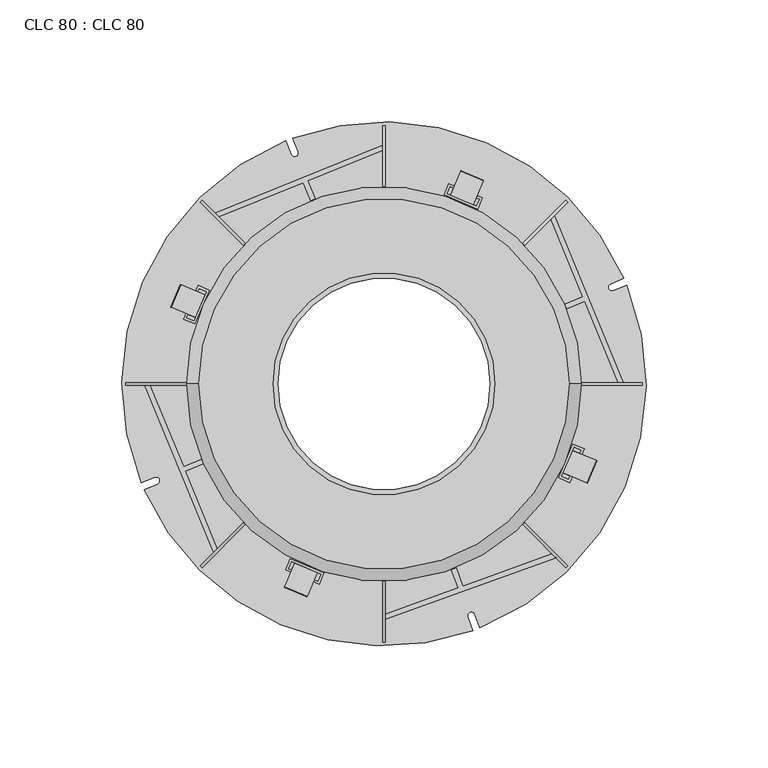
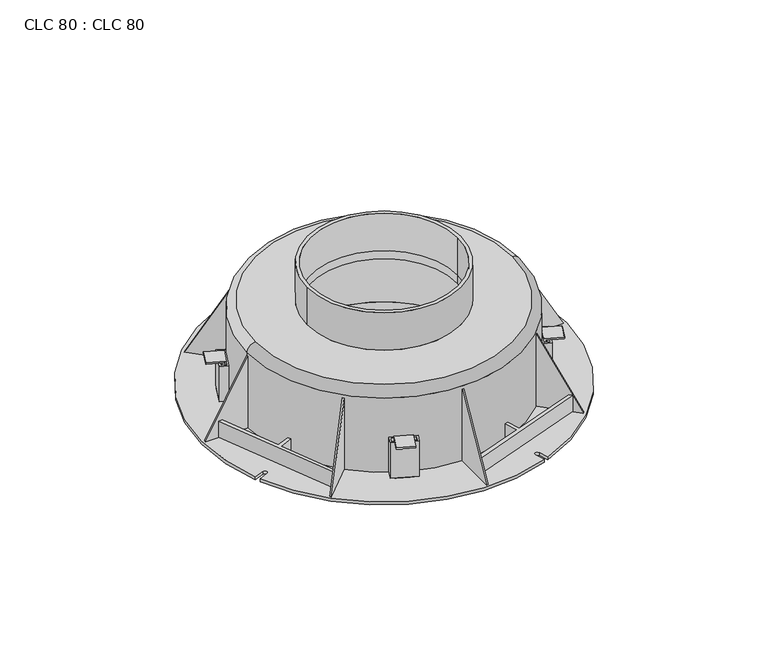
"""IFC4 building model written with IfcOpenShell, lengths in millimetres: proxy geometry, CLC 80 : CLC 80."""

from ifc_helpers import new_model, si_unit, point, frame, frame_2d, origin, origin_with_axes, origin_2d, place, context, project, spatial, polyline, circle_curve, ellipse_curve, trimmed, segment, composite_curve, outline, extrude, source, transform, mapped, element, save
from ifc_brep_helpers import plane_surface, cylinder_surface, revolved_surface, extruded_surface, advanced_brep


def clc_80_clc_80_e5c1e357(model_context):
    return source(origin(), model_context, "Body", "SolidModel", [
        extrude(outline(polyline([(71.5788626, -38.4729028), (77.4306779, -24.6614489), (82.0344958, -26.612054), (76.1826805, -40.4235079), (71.5788626, -38.4729028)]), holes=[polyline([(72.8897472, -37.9422602), (75.652038, -39.1126233), (80.7236112, -27.1426966), (77.9613204, -25.9723335), (72.8897472, -37.9422602)])]), frame((0.0, 0.0, 1.9), z_axis=(0.0, 0.0, 1.0), x_axis=(1.0, 0.0, 0.0)), (0.0, 0.0, 1.0), 22.1),
        extrude(outline(polyline([(-77.5250323, 24.6397923), (-82.1302151, 26.5871729), (-76.2880732, 40.4027213), (-71.6828904, 38.4553407), (-77.5250323, 24.6397923)]), holes=[polyline([(-78.0565927, 25.950305), (-72.9934031, 37.9237803), (-75.7565127, 39.0922087), (-80.8197024, 27.1187334), (-78.0565927, 25.950305)])]), frame((0.0, 0.0, 1.9), z_axis=(0.0, 0.0, 1.0), x_axis=(1.0, 0.0, 0.0)), (0.0, 0.0, 1.0), 22.1),
        extrude(outline(polyline([(-38.4499237, -71.6901212), (-24.6308333, -77.5238798), (-26.5754195, -82.1302433), (-40.3945099, -76.2964847), (-38.4499237, -71.6901212)]), holes=[polyline([(-37.9175682, -73.0003112), (-39.08432, -75.7641292), (-27.1077749, -80.8200534), (-25.9410232, -78.0562353), (-37.9175682, -73.0003112)])]), frame((0.0, 0.0, 1.9), z_axis=(0.0, 0.0, 1.0), x_axis=(1.0, 0.0, 0.0)), (0.0, 0.0, 1.0), 22.1),
        extrude(outline(composite_curve([segment(trimmed(circle_curve(origin_2d(), 78.9), [point((-78.9, 0.0))], [point((78.9, 0.0))], False, "CARTESIAN"), True, "CONTINUOUS"), segment(trimmed(circle_curve(origin_2d(), 78.9), [point((78.9, 0.0))], [point((-78.9, 0.0))], False, "CARTESIAN"), True, "CONTINUOUS")], self_intersect=False), holes=[composite_curve([segment(trimmed(circle_curve(origin_2d(), 60.0), [point((-60.0, 0.0))], [point((60.0, 0.0))], True, "CARTESIAN"), True, "CONTINUOUS"), segment(trimmed(circle_curve(origin_2d(), 60.0), [point((60.0, 0.0))], [point((-60.0, 0.0))], True, "CARTESIAN"), True, "CONTINUOUS")], self_intersect=False)]), frame((0.0, 0.0, 9.9), z_axis=(0.0, 0.0, 1.0), x_axis=(1.0, 0.0, 0.0)), (0.0, 0.0, 1.0), 29.1),
        advanced_brep(
        [(27.3196508, 77.4742718, 25.3), (31.4079324, 87.1456705, 25.3), (31.4079324, 87.1456705, 24.3), (27.7090109, 78.3953574, 24.3), (27.7090109, 78.3953574, 1.9), (27.3196508, 77.4742718, 1.9), (36.5305067, 73.5806702, 25.3), (36.5305067, 73.5806702, 1.9), (36.9198668, 74.5017558, 1.9), (36.9198668, 74.5017558, 24.3), (40.6187883, 83.2520689, 24.3), (40.6187883, 83.2520689, 25.3)],
        [
            (0, 1),
            (1, 2, ellipse_curve(frame((31.4079324, 87.1456705, 24.8), z_axis=(-0.9210855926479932, 0.3893601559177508, 0.0), x_axis=(0.0, 0.0, 1.0)), 0.5, 0.25)),
            (2, 3),
            (3, 4),
            (4, 5),
            (5, 0),
            (6, 7),
            (7, 8),
            (8, 9),
            (9, 10),
            (10, 11, ellipse_curve(frame((40.6187883, 83.2520689, 24.8), z_axis=(0.9210855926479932, -0.3893601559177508, 0.0), x_axis=(0.0, 0.0, 1.0)), 0.5, 0.25)),
            (11, 6),
            (0, 6),
            (11, 1),
            (10, 2),
            (9, 3),
            (8, 4),
            (7, 5),
        ],
        [
            plane_surface(frame((27.3196508, 77.4742718, 25.3), z_axis=(-0.9210855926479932, 0.3893601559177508, 0.0), x_axis=(0.3893601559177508, 0.9210855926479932, 0.0))),
            plane_surface(frame((36.5305067, 73.5806702, 25.3), z_axis=(0.9210855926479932, -0.3893601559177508, 0.0), x_axis=(-0.3893601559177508, -0.9210855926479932, 0.0))),
            plane_surface(frame((27.3196508, 77.4742718, 25.3), z_axis=(0.0, 0.0, 1.0), x_axis=(0.9210855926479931, -0.3893601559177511, 0.0))),
            extruded_surface(trimmed(ellipse_curve(frame((49.8296443, 79.3584674, 24.8), z_axis=(-0.9210855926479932, 0.3893601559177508, 0.0), x_axis=(0.0, 0.0, 1.0)), 0.5, 0.25), [point((49.8296443, 79.3584674, 25.3))], [point((49.8296443, 79.3584674, 24.3))], True, "CARTESIAN"), (-9.210856, 3.8936015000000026, 0.0), 10.000000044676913),
            plane_surface(frame((31.4079324, 87.1456705, 24.3), z_axis=(0.0, 0.0, -1.0000000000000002), x_axis=(0.9210855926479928, -0.3893601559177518, 0.0))),
            plane_surface(frame((27.7090109, 78.3953574, 24.3), z_axis=(0.38936015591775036, 0.9210855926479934, 0.0), x_axis=(0.9210855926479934, -0.38936015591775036, 0.0))),
            plane_surface(frame((27.7090109, 78.3953574, 1.9), z_axis=(0.0, 0.0, -1.0), x_axis=(0.9210855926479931, -0.3893601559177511, 0.0))),
            plane_surface(frame((27.3196508, 77.4742718, 1.9), z_axis=(-0.3893601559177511, -0.9210855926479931, 0.0), x_axis=(0.9210855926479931, -0.3893601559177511, 0.0))),
        ],
        [
            (0, [[1, 2, 3, 4, 5, 6]]),
            (1, [[7, 8, 9, 10, 11, 12]]),
            (2, [[-1, 13, -12, 14]]),
            (3, [[-2, -14, -11, 15]]),
            (4, [[-3, -15, -10, 16]]),
            (5, [[-4, -16, -9, 17]]),
            (6, [[-5, -17, -8, 18]]),
            (7, [[-6, -18, -7, -13]]),
        ],
    ),
        extrude(outline(composite_curve([segment(trimmed(circle_curve(origin_2d(), 60.5), [point((60.5, 0.0))], [point((-60.5, 0.0))], False, "CARTESIAN"), True, "CONTINUOUS"), segment(trimmed(circle_curve(origin_2d(), 60.5), [point((-60.5, 0.0))], [point((60.5, 0.0))], False, "CARTESIAN"), True, "CONTINUOUS")], self_intersect=False), holes=[composite_curve([segment(trimmed(circle_curve(origin_2d(), 60.0), [point((60.0, 0.0))], [point((-60.0, 0.0))], True, "CARTESIAN"), True, "CONTINUOUS"), segment(trimmed(circle_curve(origin_2d(), 60.0), [point((-60.0, 0.0))], [point((60.0, 0.0))], True, "CARTESIAN"), True, "CONTINUOUS")], self_intersect=False)]), frame((0.0, 0.0, 1.9), z_axis=(0.0, 0.0, 1.0), x_axis=(1.0, 0.0, 0.0)), (0.0, 0.0, 1.0), 8.0),
        extrude(outline(composite_curve([segment(trimmed(circle_curve(origin_2d(), 80.0), [point((71.5960711, -35.693173))], [point((-26.621863, -75.4405488))], False, "CARTESIAN"), True, "CONTINUOUS"), segment(polyline([(-26.621863, -75.4405488), (-29.0153379, -81.1027309), (-38.2262146, -77.2091786), (-35.8255276, -71.5299348)]), True, "CONTINUOUS"), segment(trimmed(circle_curve(origin_2d(), 80.0), [point((-35.8255276, -71.5299348))], [point((-75.4874758, 26.488507))], False, "CARTESIAN"), True, "CONTINUOUS"), segment(polyline([(-75.4874758, 26.488507), (-81.1579606, 28.8863689), (-77.2631993, 38.0967345), (-71.5931397, 35.6990524)]), True, "CONTINUOUS"), segment(trimmed(circle_curve(origin_2d(), 80.0), [point((-71.5931397, 35.6990524))], [point((26.4824875, 75.4895877))], False, "CARTESIAN"), True, "CONTINUOUS"), segment(polyline([(26.4824875, 75.4895877), (28.8795452, 81.1601612), (38.0904011, 77.2665596), (35.6933434, 71.5959862)]), True, "CONTINUOUS"), segment(trimmed(circle_curve(origin_2d(), 80.0), [point((35.6933434, 71.5959862))], [point((75.4896508, -26.4823078))], False, "CARTESIAN"), True, "CONTINUOUS"), segment(polyline([(75.4896508, -26.4823078), (81.0831071, -28.846751), (77.1895274, -38.0576162), (71.5960711, -35.693173)]), True, "CONTINUOUS")], self_intersect=False), holes=[composite_curve([segment(trimmed(circle_curve(origin_2d(), 60.0), [point((-60.0, 0.0))], [point((60.0, 0.0))], True, "CARTESIAN"), True, "CONTINUOUS"), segment(trimmed(circle_curve(origin_2d(), 60.0), [point((60.0, 0.0))], [point((-60.0, 0.0))], True, "CARTESIAN"), True, "CONTINUOUS")], self_intersect=False)]), frame((0.0, 0.0, 0.9), z_axis=(0.0, 0.0, 1.0), x_axis=(1.0, 0.0, 0.0)), (0.0, 0.0, 1.0), 1.0),
        advanced_brep(
        [(-27.4587961, -77.4155042, 25.3), (-31.5470339, -87.0869214, 25.3), (-31.5470339, -87.0869214, 24.3), (-27.848152, -78.3365916, 24.3), (-27.848152, -78.3365916, 1.9), (-27.4587961, -77.4155042, 1.9), (-36.6696696, -73.5219443, 25.3), (-36.6696696, -73.5219443, 1.9), (-37.0590256, -74.4430317, 1.9), (-37.0590256, -74.4430317, 24.3), (-40.7579075, -83.1933615, 24.3), (-40.7579075, -83.1933615, 25.3)],
        [
            (0, 1),
            (1, 2, ellipse_curve(frame((-31.5470339, -87.0869214, 24.8), z_axis=(0.9210873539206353, -0.38935598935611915, 0.0), x_axis=(0.0, 0.0, 1.0)), 0.5, 0.25)),
            (2, 3),
            (3, 4),
            (4, 5),
            (5, 0),
            (6, 7),
            (7, 8),
            (8, 9),
            (9, 10),
            (10, 11, ellipse_curve(frame((-40.7579075, -83.1933615, 24.8), z_axis=(-0.9210873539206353, 0.38935598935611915, 0.0), x_axis=(0.0, 0.0, 1.0)), 0.5, 0.25)),
            (11, 6),
            (0, 6),
            (11, 1),
            (10, 2),
            (9, 3),
            (8, 4),
            (7, 5),
        ],
        [
            plane_surface(frame((-27.4587961, -77.4155042, 25.3), z_axis=(0.9210873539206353, -0.38935598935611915, 0.0), x_axis=(-0.38935598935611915, -0.9210873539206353, 0.0))),
            plane_surface(frame((-36.6696696, -73.5219443, 25.3), z_axis=(-0.9210873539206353, 0.38935598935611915, 0.0), x_axis=(0.38935598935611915, 0.9210873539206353, 0.0))),
            plane_surface(frame((-27.4587961, -77.4155042, 25.3), z_axis=(0.0, 0.0, 1.0000000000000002), x_axis=(-0.9210873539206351, 0.3893559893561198, 0.0))),
            extruded_surface(trimmed(ellipse_curve(frame((-49.968781, -79.2998016, 24.8), z_axis=(0.9210873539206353, -0.38935598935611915, 0.0), x_axis=(0.0, 0.0, 1.0)), 0.5, 0.25), [point((-49.968781, -79.2998016, 25.3))], [point((-49.968781, -79.2998016, 24.3))], True, "CARTESIAN"), (9.210873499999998, -3.8935598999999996, 0.0), 9.999999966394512),
            plane_surface(frame((-31.5470339, -87.0869214, 24.3), z_axis=(0.0, 0.0, -1.0), x_axis=(-0.9210873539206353, 0.3893559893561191, 0.0))),
            plane_surface(frame((-27.848152, -78.3365916, 24.3), z_axis=(-0.3893559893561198, -0.9210873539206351, 0.0), x_axis=(-0.9210873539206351, 0.3893559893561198, 0.0))),
            plane_surface(frame((-27.848152, -78.3365916, 1.9), z_axis=(0.0, 0.0, -1.0), x_axis=(-0.9210873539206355, 0.3893559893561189, 0.0))),
            plane_surface(frame((-27.4587961, -77.4155042, 1.9), z_axis=(0.3893559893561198, 0.9210873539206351, 0.0), x_axis=(-0.9210873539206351, 0.3893559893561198, 0.0))),
        ],
        [
            (0, [[1, 2, 3, 4, 5, 6]]),
            (1, [[7, 8, 9, 10, 11, 12]]),
            (2, [[-1, 13, -12, 14]]),
            (3, [[-2, -14, -11, 15]]),
            (4, [[-3, -15, -10, 16]]),
            (5, [[-4, -16, -9, 17]]),
            (6, [[-5, -17, -8, 18]]),
            (7, [[-6, -18, -7, -13]]),
        ],
    ),
        advanced_brep(
        [(77.40263, -27.2909546, 25.3), (87.0740385, -31.3792132, 25.3), (87.0740385, -31.3792132, 24.3), (78.3237165, -27.6803126, 24.3), (78.3237165, -27.6803126, 1.9), (77.40263, -27.2909546, 1.9), (73.5090504, -36.5018198, 25.3), (73.5090504, -36.5018198, 1.9), (74.4301369, -36.8911778, 1.9), (74.4301369, -36.8911778, 24.3), (83.1804588, -40.5900784, 24.3), (83.1804588, -40.5900784, 25.3)],
        [
            (0, 1),
            (1, 2, ellipse_curve(frame((87.0740385, -31.3792132, 24.8), z_axis=(0.38935796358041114, 0.9210865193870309, 0.0), x_axis=(0.0, 0.0, 1.0)), 0.5, 0.25)),
            (2, 3),
            (3, 4),
            (4, 5),
            (5, 0),
            (6, 7),
            (7, 8),
            (8, 9),
            (9, 10),
            (10, 11, ellipse_curve(frame((83.1804588, -40.5900784, 24.8), z_axis=(-0.38935796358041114, -0.9210865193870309, 0.0), x_axis=(0.0, 0.0, 1.0)), 0.5, 0.25)),
            (11, 6),
            (0, 6),
            (11, 1),
            (10, 2),
            (9, 3),
            (8, 4),
            (7, 5),
        ],
        [
            plane_surface(frame((77.40263, -27.2909546, 25.3), z_axis=(0.38935796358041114, 0.9210865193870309, 0.0), x_axis=(0.9210865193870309, -0.38935796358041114, 0.0))),
            plane_surface(frame((73.5090504, -36.5018198, 25.3), z_axis=(-0.38935796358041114, -0.9210865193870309, 0.0), x_axis=(-0.9210865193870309, 0.38935796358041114, 0.0))),
            plane_surface(frame((77.40263, -27.2909546, 25.3), z_axis=(0.0, 0.0, 1.0), x_axis=(-0.38935796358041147, -0.9210865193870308, 0.0))),
            extruded_surface(trimmed(ellipse_curve(frame((79.2868792, -49.8009436, 24.8), z_axis=(0.38935796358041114, 0.9210865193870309, 0.0), x_axis=(0.0, 0.0, 1.0)), 0.5, 0.25), [point((79.2868792, -49.8009436, 25.3))], [point((79.2868792, -49.8009436, 24.3))], True, "CARTESIAN"), (3.8935795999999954, 9.210865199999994, 0.0), 9.999999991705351),
            plane_surface(frame((87.0740385, -31.3792132, 24.3), z_axis=(0.0, 0.0, -1.0), x_axis=(-0.38935796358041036, -0.9210865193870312, 0.0))),
            plane_surface(frame((78.3237165, -27.6803126, 24.3), z_axis=(0.9210865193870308, -0.38935796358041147, 0.0), x_axis=(-0.38935796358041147, -0.9210865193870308, 0.0))),
            plane_surface(frame((78.3237165, -27.6803126, 1.9), z_axis=(0.0, 0.0, -1.0), x_axis=(-0.38935796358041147, -0.9210865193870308, 0.0))),
            plane_surface(frame((77.40263, -27.2909546, 1.9), z_axis=(-0.9210865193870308, 0.38935796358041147, 0.0), x_axis=(-0.38935796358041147, -0.9210865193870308, 0.0))),
        ],
        [
            (0, [[1, 2, 3, 4, 5, 6]]),
            (1, [[7, 8, 9, 10, 11, 12]]),
            (2, [[-1, 13, -12, 14]]),
            (3, [[-2, -14, -11, 15]]),
            (4, [[-3, -15, -10, 16]]),
            (5, [[-4, -16, -9, 17]]),
            (6, [[-5, -17, -8, 18]]),
            (7, [[-6, -18, -7, -13]]),
        ],
    ),
        advanced_brep(
        [(-77.4723786, 27.3318598, 25.3), (-87.1432624, 31.4213592, 25.3), (-87.1432624, 31.4213592, 24.3), (-78.3934151, 27.721336, 24.3), (-78.3934151, 27.721336, 1.9), (-77.4723786, 27.3318598, 1.9), (-73.5776173, 36.5422254, 25.3), (-73.5776173, 36.5422254, 1.9), (-74.4986538, 36.9317016, 1.9), (-74.4986538, 36.9317016, 24.3), (-83.2485011, 40.6317248, 24.3), (-83.2485011, 40.6317248, 25.3)],
        [
            (0, 1),
            (1, 2, ellipse_curve(frame((-87.1432624, 31.4213592, 24.8), z_axis=(-0.3894761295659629, -0.921036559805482, 0.0), x_axis=(0.0, 0.0, 1.0)), 0.5, 0.25)),
            (2, 3),
            (3, 4),
            (4, 5),
            (5, 0),
            (6, 7),
            (7, 8),
            (8, 9),
            (9, 10),
            (10, 11, ellipse_curve(frame((-83.2485011, 40.6317248, 24.8), z_axis=(0.3894761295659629, 0.921036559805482, 0.0), x_axis=(0.0, 0.0, 1.0)), 0.5, 0.25)),
            (11, 6),
            (0, 6),
            (11, 1),
            (10, 2),
            (9, 3),
            (8, 4),
            (7, 5),
        ],
        [
            plane_surface(frame((-77.4723786, 27.3318598, 25.3), z_axis=(-0.38947612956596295, -0.9210365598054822, 0.0), x_axis=(-0.9210365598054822, 0.38947612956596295, 0.0))),
            plane_surface(frame((-73.5776173, 36.5422254, 25.3), z_axis=(0.38947612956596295, 0.9210365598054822, 0.0), x_axis=(0.9210365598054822, -0.38947612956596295, 0.0))),
            plane_surface(frame((-77.4723786, 27.3318598, 25.3), z_axis=(0.0, 0.0, 1.0000000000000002), x_axis=(0.3894761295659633, 0.9210365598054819, 0.0))),
            extruded_surface(trimmed(ellipse_curve(frame((-79.3537398, 49.8420904, 24.8), z_axis=(-0.3894761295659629, -0.921036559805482, 0.0), x_axis=(0.0, 0.0, 1.0)), 0.5, 0.25), [point((-79.3537398, 49.8420904, 25.3))], [point((-79.3537398, 49.8420904, 24.3))], True, "CARTESIAN"), (-3.894761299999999, -9.210365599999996, 0.0), 10.000000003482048),
            plane_surface(frame((-87.1432624, 31.4213592, 24.3), z_axis=(0.0, 0.0, -1.0), x_axis=(0.389476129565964, 0.9210365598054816, 0.0))),
            plane_surface(frame((-78.3934151, 27.721336, 24.3), z_axis=(-0.9210365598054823, 0.3894761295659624, 0.0), x_axis=(0.3894761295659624, 0.9210365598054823, 0.0))),
            plane_surface(frame((-78.3934151, 27.721336, 1.9), z_axis=(0.0, 0.0, -1.0000000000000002), x_axis=(0.3894761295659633, 0.9210365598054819, 0.0))),
            plane_surface(frame((-77.4723786, 27.3318598, 1.9), z_axis=(0.9210365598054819, -0.3894761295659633, 0.0), x_axis=(0.3894761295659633, 0.9210365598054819, 0.0))),
        ],
        [
            (0, [[1, 2, 3, 4, 5, 6]]),
            (1, [[7, 8, 9, 10, 11, 12]]),
            (2, [[-1, 13, -12, 14]]),
            (3, [[-2, -14, -11, 15]]),
            (4, [[-3, -15, -10, 16]]),
            (5, [[-4, -16, -9, 17]]),
            (6, [[-5, -17, -8, 18]]),
            (7, [[-6, -18, -7, -13]]),
        ],
    ),
        extrude(outline(polyline([(24.6283909, 77.5327036), (26.5773839, 82.1372042), (40.3908859, 76.2902252), (38.4418929, 71.6857246), (24.6283909, 77.5327036)]), holes=[polyline([(25.9390897, 78.0638051), (37.9107914, 72.9964233), (39.0801872, 75.7591237), (27.1084855, 80.8265055), (25.9390897, 78.0638051)])]), frame((0.0, 0.0, 1.9), z_axis=(0.0, 0.0, 1.0), x_axis=(1.0, 0.0, 0.0)), (0.0, 0.0, 1.0), 22.1),
        extrude(outline(polyline([(-74.8350721, -30.9728159), (-74.0747574, -32.8226595), (-81.474132, -35.8639184), (-68.3942768, -67.68717), (-69.9267509, -69.2196441), (-98.1716016, -0.5), (-96.0092567, -0.5), (-82.2344467, -34.0140748), (-74.8350721, -30.9728159)])), frame((0.0, 0.0, 1.9), z_axis=(0.0, 0.0, 1.0), x_axis=(1.0, 0.0, 0.0)), (0.0, 0.0, 1.0), 10.0),
        extrude(outline(polyline([(27.6830671, -76.1131858), (29.5644212, -75.4345792), (32.2788474, -82.9599955), (69.0055319, -69.7126386), (70.5680559, -71.2751627), (0.5, -96.5487902), (0.5, -94.422662), (30.3974933, -83.6386021), (27.6830671, -76.1131858)])), frame((0.0, 0.0, 1.9), z_axis=(0.0, 0.0, 1.0), x_axis=(1.0, 0.0, 0.0)), (0.0, 0.0, 1.0), 10.0),
        extrude(outline(polyline([(74.8616455, 30.9107175), (74.1013308, 32.7605611), (81.5007053, 35.80182), (68.3950209, 67.6879141), (69.927495, 69.2203882), (98.1726515, 0.5), (96.0103066, 0.5), (82.2610201, 33.9519764), (74.8616455, 30.9107175)])), frame((0.0, 0.0, 1.9), z_axis=(0.0, 0.0, 1.0), x_axis=(1.0, 0.0, 0.0)), (0.0, 0.0, 1.0), 10.0),
        extrude(outline(polyline([(-28.2540842, 75.9357461), (-30.1083029, 75.1861642), (-33.1066305, 82.603039), (-67.850472, 68.5575788), (-69.3866879, 70.0937947), (-0.5, 97.9417583), (-0.5, 95.7845155), (-31.2524118, 83.3526209), (-28.2540842, 75.9357461)])), frame((0.0, 0.0, 1.9), z_axis=(0.0, 0.0, 1.0), x_axis=(1.0, 0.0, 0.0)), (0.0, 0.0, 1.0), 10.0),
        extrude(outline(polyline([(46.5, -81.0), (1.5, -106.0), (1.5, -81.0), (46.5, -81.0)])), frame((0.0, -0.5, 0.0), z_axis=(0.0, 1.0, 0.0), x_axis=(0.0, 0.0, 1.0)), (0.0, 0.0, 1.0), 1.0),
        extrude(outline(polyline([(45.0, 0.0), (0.0, -25.0), (0.0, 0.0), (45.0, 0.0)])), frame((-56.9220959, -57.6292027, 1.5), z_axis=(-0.7071067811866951, 0.7071067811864, 0.0), x_axis=(0.0, 0.0, 1.0)), (0.0, 0.0, 1.0), 1.0),
        extrude(outline(polyline([(0.0, 0.0), (-39.3370774, -21.8539319), (-51.4781507, 0.0), (0.0, 0.0)])), frame((-0.5, -81.0, 46.5), z_axis=(1.0, 2.8820179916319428e-11, -9.285588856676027e-12), x_axis=(-5.87925158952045e-12, 0.48564293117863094, 0.8741572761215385)), (0.0, 0.0, 1.0), 1.0),
        extrude(outline(polyline([(0.0, 0.0), (-39.3370774, -21.8539319), (-51.4781507, 0.0), (0.0, 0.0)])), frame((56.9220959, -57.6292027, 46.5), z_axis=(0.7071067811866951, 0.7071067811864, 0.0), x_axis=(-0.3434014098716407, 0.3434014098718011, 0.8741572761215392)), (0.0, 0.0, 1.0), 1.0),
        extrude(outline(polyline([(46.5, 81.0), (1.5, 81.0), (1.5, 106.0), (46.5, 81.0)])), frame((0.0, -0.5, 0.0), z_axis=(0.0, 1.0, 0.0), x_axis=(0.0, 0.0, 1.0)), (0.0, 0.0, 1.0), 1.0),
        extrude(outline(polyline([(-45.0, 0.0), (0.0, 0.0), (0.0, -25.0), (-45.0, 0.0)])), frame((57.6292027, 56.9220959, 1.5), z_axis=(-0.7071067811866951, 0.7071067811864, 0.0), x_axis=(0.0, 0.0, -1.0)), (0.0, 0.0, 1.0), 1.0),
        extrude(outline(polyline([(45.0, 0.0), (0.0, -25.0), (0.0, 0.0), (45.0, 0.0)])), frame((-0.5, 81.0, 1.5), z_axis=(1.0, -2.8820179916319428e-11, -9.285588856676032e-12), x_axis=(9.285588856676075e-12, 0.0, 1.0)), (0.0, 0.0, 1.0), 1.0),
        extrude(outline(polyline([(0.0, 0.0), (51.4781507, 0.0), (39.3370774, -21.8539319), (0.0, 0.0)])), frame((-57.6292027, 56.9220959, 46.5), z_axis=(0.7071067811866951, 0.7071067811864, 0.0), x_axis=(-0.34340140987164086, 0.3434014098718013, -0.8741572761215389)), (0.0, 0.0, 1.0), 1.0),
        advanced_brep(
        [(-76.0, 0.0, 53.4), (76.0, 0.0, 53.4), (45.5, 0.0, 53.4), (-45.5, 0.0, 53.4), (-80.0, 0.0, 48.4), (80.0, 0.0, 48.4), (-43.4, 0.0, 48.4), (43.4, 0.0, 48.4), (43.4, 0.0, 53.4), (-43.4, 0.0, 53.4), (-81.0, 0.0, 48.4), (81.0, 0.0, 48.4), (-81.0, 0.0, 1.9), (81.0, 0.0, 1.9), (-80.0, 0.0, 1.9), (80.0, 0.0, 1.9), (-45.5, 0.0, 76.9), (45.5, 0.0, 76.9), (-43.4, 0.0, 76.9), (43.4, 0.0, 76.9)],
        [
            (0, 1, circle_curve(frame((0.0, 0.0, 53.4), z_axis=(0.0, 0.0, 1.0), x_axis=(-1.0, 0.0, 0.0)), 76.0)),
            (1, 0, circle_curve(frame((0.0, 0.0, 53.4), z_axis=(0.0, 0.0, 1.0), x_axis=(1.0, 0.0, 0.0)), 76.0)),
            (2, 3, circle_curve(frame((0.0, 0.0, 53.4), z_axis=(0.0, 0.0, -1.0), x_axis=(1.0, 0.0, 0.0)), 45.5)),
            (3, 2, circle_curve(frame((0.0, 0.0, 53.4), z_axis=(0.0, 0.0, -1.0), x_axis=(1.0, 0.0, 0.0)), 45.5)),
            (4, 5, circle_curve(frame((0.0, 0.0, 48.4), z_axis=(0.0, 0.0, -1.0), x_axis=(1.0, 0.0, 0.0)), 80.0)),
            (5, 4, circle_curve(frame((0.0, 0.0, 48.4), z_axis=(0.0, 0.0, -1.0), x_axis=(1.0, 0.0, 0.0)), 80.0)),
            (6, 7, circle_curve(frame((0.0, 0.0, 48.4), z_axis=(0.0, 0.0, 1.0), x_axis=(1.0, 0.0, 0.0)), 43.4)),
            (7, 6, circle_curve(frame((0.0, 0.0, 48.4), z_axis=(0.0, 0.0, 1.0), x_axis=(1.0, 0.0, 0.0)), 43.4)),
            (7, 8),
            (8, 9, circle_curve(frame((0.0, 0.0, 53.4), z_axis=(0.0, 0.0, 1.0), x_axis=(1.0, 0.0, 0.0)), 43.4)),
            (9, 6),
            (9, 8, circle_curve(frame((0.0, 0.0, 53.4), z_axis=(0.0, 0.0, 1.0), x_axis=(1.0, 0.0, 0.0)), 43.4)),
            (0, 10, circle_curve(frame((-76.0, 0.0, 48.4), z_axis=(0.0, -1.0, 0.0), x_axis=(1.0, 0.0, 0.0)), 5.0)),
            (10, 11, circle_curve(frame((0.0, 0.0, 48.4), z_axis=(0.0, 0.0, 1.0), x_axis=(-1.0, 0.0, 0.0)), 81.0)),
            (11, 1, circle_curve(frame((76.0, 0.0, 48.4), z_axis=(0.0, -1.0, 0.0), x_axis=(-1.0, 0.0, 0.0)), 5.0)),
            (11, 10, circle_curve(frame((0.0, 0.0, 48.4), z_axis=(0.0, 0.0, 1.0), x_axis=(1.0, 0.0, 0.0)), 81.0)),
            (12, 13, circle_curve(frame((0.0, 0.0, 1.9), z_axis=(0.0, 0.0, -1.0), x_axis=(1.0, 0.0, 0.0)), 81.0)),
            (13, 12, circle_curve(frame((0.0, 0.0, 1.9), z_axis=(0.0, 0.0, -1.0), x_axis=(1.0, 0.0, 0.0)), 81.0)),
            (14, 15, circle_curve(frame((0.0, 0.0, 1.9), z_axis=(0.0, 0.0, 1.0), x_axis=(1.0, 0.0, 0.0)), 80.0)),
            (15, 14, circle_curve(frame((0.0, 0.0, 1.9), z_axis=(0.0, 0.0, 1.0), x_axis=(1.0, 0.0, 0.0)), 80.0)),
            (13, 11),
            (10, 12),
            (15, 5),
            (4, 14),
            (16, 17, circle_curve(frame((0.0, 0.0, 76.9), z_axis=(0.0, 0.0, 1.0), x_axis=(1.0, 0.0, 0.0)), 45.5)),
            (17, 16, circle_curve(frame((0.0, 0.0, 76.9), z_axis=(0.0, 0.0, 1.0), x_axis=(1.0, 0.0, 0.0)), 45.5)),
            (18, 19, circle_curve(frame((0.0, 0.0, 76.9), z_axis=(0.0, 0.0, -1.0), x_axis=(1.0, 0.0, 0.0)), 43.4)),
            (19, 18, circle_curve(frame((0.0, 0.0, 76.9), z_axis=(0.0, 0.0, -1.0), x_axis=(1.0, 0.0, 0.0)), 43.4)),
            (18, 9),
            (8, 19),
            (16, 3),
            (2, 17),
        ],
        [
            plane_surface(frame((76.0, 0.0, 53.4), z_axis=(0.0, 0.0, 1.0), x_axis=(0.0, 1.0, 0.0))),
            plane_surface(frame((76.0, 0.0, 48.4), z_axis=(0.0, 0.0, -1.0), x_axis=(0.0, -1.0, 0.0))),
            revolved_surface(polyline([(43.4, 0.0, 48.4), (43.4, 0.0, 53.4)]), (0.0, 0.0, 48.4), (0.0, 0.0, -1.0)),
            revolved_surface(trimmed(ellipse_curve(frame((-76.0, 0.0, 48.4), z_axis=(0.0, 1.0, 0.0), x_axis=(1.0, 0.0, 0.0)), 5.0, 5.0), [point((-81.0, 0.0, 48.4))], [point((-76.0, 0.0, 53.4))], True, "CARTESIAN"), (0.0, 0.0, 0.0), (0.0, 0.0, 1.0)),
            revolved_surface(trimmed(ellipse_curve(frame((76.0, 0.0, 48.4), z_axis=(0.0, -1.0, 0.0), x_axis=(-1.0, 0.0, 0.0)), 5.0, 5.0), [point((81.0, 0.0, 48.4))], [point((76.0, 0.0, 53.4))], True, "CARTESIAN"), (0.0, 0.0, 0.0), (0.0, 0.0, 1.0)),
            plane_surface(frame((81.0, 0.0, 1.9), z_axis=(0.0, 0.0, -1.0), x_axis=(0.0, -1.0, 0.0))),
            cylinder_surface(frame((0.0, 0.0, 1.9), z_axis=(0.0, 0.0, 1.0), x_axis=(1.0, 0.0, 0.0)), 81.0),
            revolved_surface(polyline([(80.0, 0.0, 1.9), (80.0, 0.0, 48.4)]), (0.0, 0.0, 1.9), (0.0, 0.0, -1.0)),
            plane_surface(frame((43.4, 0.0, 76.9), z_axis=(0.0, 0.0, 1.0), x_axis=(0.0, -1.0, 0.0))),
            revolved_surface(polyline([(43.4, 0.0, 53.4), (43.4, 0.0, 76.9)]), (0.0, 0.0, 53.4), (0.0, 0.0, -1.0)),
            cylinder_surface(frame((0.0, 0.0, 53.4), z_axis=(0.0, 0.0, 1.0), x_axis=(1.0, 0.0, 0.0)), 45.5),
        ],
        [
            (0, [[1, 2], [3, 4]]),
            (1, [[5, 6], [7, 8]]),
            (2, [[-8, 9, 10, 11]]),
            (2, [[-7, -11, 12, -9]]),
            (3, [[13, 14, 15, -1]]),
            (4, [[-13, -2, -15, 16]]),
            (5, [[17, 18], [19, 20]]),
            (6, [[-18, 21, -14, 22]]),
            (6, [[-17, -22, -16, -21]]),
            (7, [[-20, 23, -5, 24]]),
            (7, [[-19, -24, -6, -23]]),
            (8, [[25, 26], [27, 28]]),
            (9, [[-27, 29, -10, 30]]),
            (9, [[-28, -30, -12, -29]]),
            (10, [[-25, 31, -3, 32]]),
            (10, [[-26, -32, -4, -31]]),
        ],
    ),
        extrude(outline(composite_curve([segment(polyline([(-93.948651, -38.2882101), (-99.5433867, -40.5877342)]), True, "CONTINUOUS"), segment(trimmed(circle_curve(origin_2d(), 107.5), [point((-99.5433867, -40.5877342))], [point((-40.2900274, 99.6642548))], False, "CARTESIAN"), True, "CONTINUOUS"), segment(polyline([(-40.2900274, 99.6642548), (-38.0255897, 94.062782)]), True, "CONTINUOUS"), segment(trimmed(circle_curve(frame_2d((-36.6349257, 94.6249684)), 1.5), [point((-38.0255897, 94.062782))], [point((-35.2442616, 95.1871548))], True, "CARTESIAN"), True, "CONTINUOUS"), segment(polyline([(-35.2442616, 95.1871548), (-37.4930074, 100.7498109)]), True, "CONTINUOUS"), segment(trimmed(circle_curve(origin_2d(), 107.5), [point((-37.4930074, 100.7498109))], [point((98.3992027, 43.2879535))], False, "CARTESIAN"), True, "CONTINUOUS"), segment(polyline([(98.3992027, 43.2879535), (92.8307316, 40.9992246)]), True, "CONTINUOUS"), segment(trimmed(circle_curve(frame_2d((93.4009676, 39.6118419)), 1.5), [point((92.8307316, 40.9992246))], [point((93.9712037, 38.2244591))], True, "CARTESIAN"), True, "CONTINUOUS"), segment(polyline([(93.9712037, 38.2244591), (99.5688669, 40.5251865)]), True, "CONTINUOUS"), segment(trimmed(circle_curve(origin_2d(), 107.5), [point((99.5688669, 40.5251865))], [point((39.2829273, -100.0654867))], False, "CARTESIAN"), True, "CONTINUOUS"), segment(polyline([(39.2829273, -100.0654867), (37.2471076, -94.4214245)]), True, "CONTINUOUS"), segment(trimmed(circle_curve(frame_2d((35.8360921, -94.9303794)), 1.5), [point((37.2471076, -94.4214245))], [point((34.4250765, -95.4393343))], True, "CARTESIAN"), True, "CONTINUOUS"), segment(polyline([(34.4250765, -95.4393343), (36.4751023, -101.1227814)]), True, "CONTINUOUS"), segment(trimmed(circle_curve(origin_2d(), 107.5), [point((36.4751023, -101.1227814))], [point((-98.3719787, -43.3497845))], False, "CARTESIAN"), True, "CONTINUOUS"), segment(polyline([(-98.3719787, -43.3497845), (-92.8081789, -41.0629756)]), True, "CONTINUOUS"), segment(trimmed(circle_curve(frame_2d((-93.378415, -39.6755929)), 1.5), [point((-92.8081789, -41.0629756))], [point((-93.948651, -38.2882101))], True, "CARTESIAN"), True, "CONTINUOUS")], self_intersect=False), holes=[composite_curve([segment(polyline([(-79.406014, 28.1495308), (-74.4711001, 26.0627177)]), True, "CONTINUOUS"), segment(trimmed(circle_curve(origin_2d(), 78.9), [point((-74.4711001, 26.0627177))], [point((-35.3962763, -70.5146341))], True, "CARTESIAN"), True, "CONTINUOUS"), segment(polyline([(-35.3962763, -70.5146341), (-37.4824416, -75.4498219), (-28.2742383, -79.342253), (-26.195445, -74.4245165)]), True, "CONTINUOUS"), segment(trimmed(circle_curve(origin_2d(), 78.9), [point((-26.195445, -74.4245165))], [point((70.5808635, -35.2640285))], True, "CARTESIAN"), True, "CONTINUOUS"), segment(polyline([(70.5808635, -35.2640285), (75.5160451, -37.3502085), (79.4096247, -28.1393433), (74.4744431, -26.0531633)]), True, "CONTINUOUS"), segment(trimmed(circle_curve(origin_2d(), 78.9), [point((74.4744431, -26.0531633))], [point((35.2641965, 70.5807796))], True, "CARTESIAN"), True, "CONTINUOUS"), segment(polyline([(35.2641965, 70.5807796), (37.3503882, 75.5159562), (28.1395323, 79.4095577), (26.0533406, 74.4743811)]), True, "CONTINUOUS"), segment(trimmed(circle_curve(origin_2d(), 78.9), [point((26.0533406, 74.4743811))], [point((-70.5763388, 35.2730833))], True, "CARTESIAN"), True, "CONTINUOUS"), segment(polyline([(-70.5763388, 35.2730833), (-75.5112527, 37.3598964), (-79.406014, 28.1495308)]), True, "CONTINUOUS")], self_intersect=False)]), origin_with_axes(), (0.0, 0.0, 1.0), 1.9),
    ])


if __name__ == "__main__":
    model = new_model("IFC4")
    model_context = context("Model", 3, world=origin())
    ifc_project = project(units=[si_unit("LENGTHUNIT", "METRE", prefix="MILLI")], contexts=[model_context])
    site = spatial("IfcSite", under=ifc_project)
    building = spatial("IfcBuilding", under=site)
    placement = place(None, origin())
    clc_80_clc_80_shape = clc_80_clc_80_e5c1e357(model_context)
    element("IfcBuildingElementProxy", 1, Name="CLC 80 : CLC 80", ObjectType="CLC 80 : CLC 80", at=placement, inside=building, context=model_context, shape_type="MappedRepresentation", body=[
        mapped(clc_80_clc_80_shape, transform((0.0, 0.0, 0.0), x_axis=(1.0, 0.0, 0.0), y_axis=(0.0, 1.0, 0.0), z_axis=(0.0, 0.0, 1.0))),
    ])
    save(model, "model.ifc")
